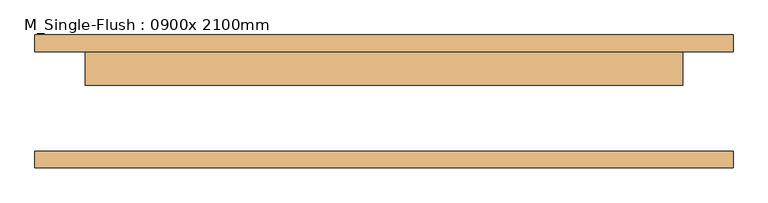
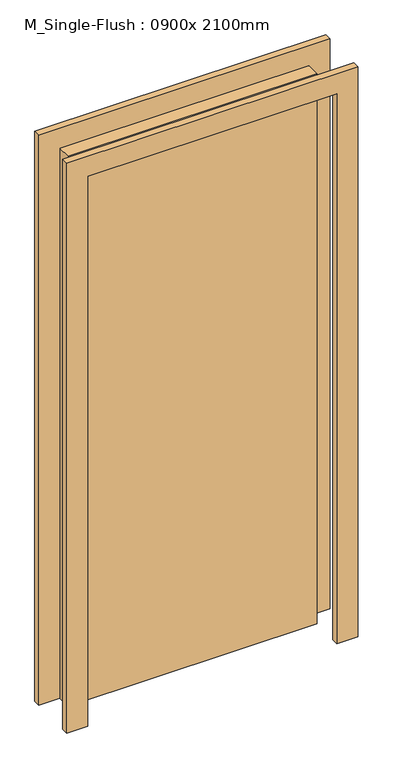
"""IFC4 building model written with IfcOpenShell, lengths in millimetres: door geometry, M_Single-Flush : 0900x 2100mm."""

from ifc_helpers import new_model, si_unit, frame, origin, origin_with_axes, place, context, project, spatial, polyline, outline, extrude, source, transform, mapped, element, save


def m_single_flush_0900x_2100mm_532b048f(model_context):
    return source(origin(), model_context, "Body", "SweptSolid", [
        extrude(outline(polyline([(450.0, 24.0), (-450.0, 24.0), (-450.0, 75.0), (450.0, 75.0), (450.0, 24.0)])), origin_with_axes(), (0.0, 0.0, 1.0), 2100.0),
        extrude(outline(polyline([(2176.0, -526.0), (0.0, -526.0), (0.0, -450.0), (2100.0, -450.0), (2100.0, 450.0), (0.0, 450.0), (0.0, 526.0), (2176.0, 526.0), (2176.0, -526.0)])), frame((0.0, 75.0, 0.0), z_axis=(0.0, 1.0, 0.0), x_axis=(0.0, 0.0, 1.0)), (0.0, 0.0, 1.0), 25.0),
        extrude(outline(polyline([(2176.0, 526.0), (2176.0, -526.0), (0.0, -526.0), (0.0, -450.0), (2100.0, -450.0), (2100.0, 450.0), (0.0, 450.0), (0.0, 526.0), (2176.0, 526.0)])), frame((0.0, -100.0, 0.0), z_axis=(0.0, 1.0, 0.0), x_axis=(0.0, 0.0, 1.0)), (0.0, 0.0, 1.0), 25.0),
    ])


if __name__ == "__main__":
    model = new_model("IFC4")
    model_context = context("Model", 3, world=origin())
    ifc_project = project(units=[si_unit("LENGTHUNIT", "METRE", prefix="MILLI")], contexts=[model_context])
    site = spatial("IfcSite", under=ifc_project)
    building = spatial("IfcBuilding", under=site)
    placement = place(None, origin())
    m_single_flush_0900x_2100mm_shape = m_single_flush_0900x_2100mm_532b048f(model_context)
    element("IfcDoor", 1, ObjectType="M_Single-Flush : 0900x 2100mm", at=placement, inside=building, context=model_context, shape_type="MappedRepresentation", body=[
        mapped(m_single_flush_0900x_2100mm_shape, transform((0.0, 0.0, 0.0), x_axis=(1.0, 0.0, 0.0), y_axis=(0.0, 1.0, 0.0), z_axis=(0.0, 0.0, 1.0))),
    ])
    save(model, "model.ifc")
